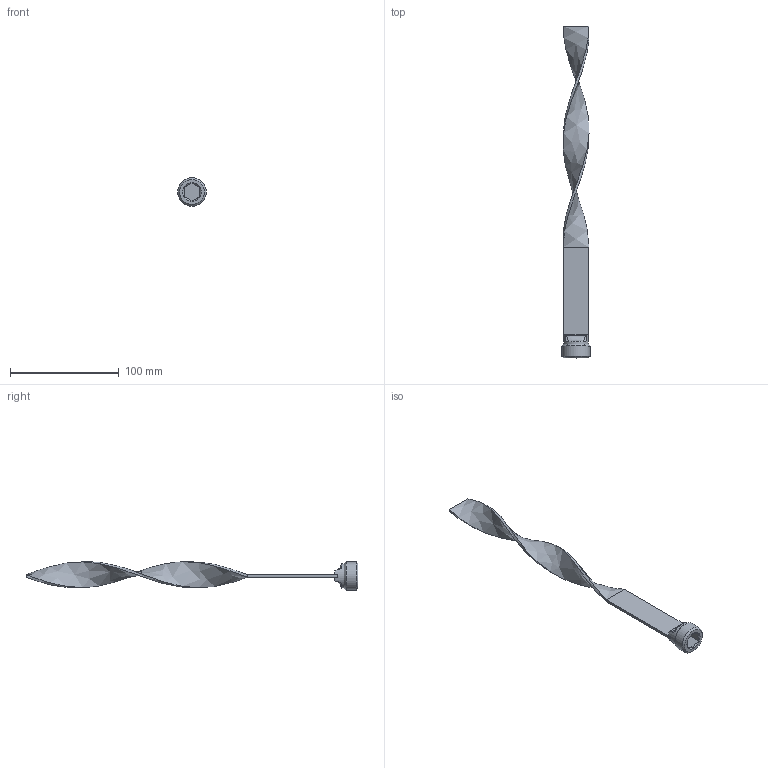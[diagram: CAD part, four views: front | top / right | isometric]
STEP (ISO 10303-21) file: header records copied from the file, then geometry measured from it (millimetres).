
FILE_DESCRIPTION(/* description */ (''),/* implementation_level */ '2;1');
FILE_NAME(/* name */ 'C:/Users/drich/Desktop/TB34X12 v1.step',/* time_stamp */ '2020-01-14T09:04:20-06:00',/* author */ (''),/* organization */ (''),/* preprocessor_version */ 'ST-DEVELOPER v18',/* originating_system */ 'Autodesk Translation Framework v8.12.0.6',/* authorisation */ '');
FILE_SCHEMA (('AUTOMOTIVE_DESIGN { 1 0 10303 214 3 1 1 }'));
Length unit declared in the file: inch
Products named in the file (1): TB34X12
Bounding box: 26.3 x 304.8 x 26.3 mm (x, y, z)
Volume: 22800 mm3; surface area: 18061.3 mm2
Topology: 2 solids, 2 shells, 43 faces, 107 edges, 70 vertices
Faces by surface type: plane 22, bspline 10, cylinder 6, cone 3, torus 2
Full cylindrical faces by diameter (mm): 22.504 x1, 26.299 x1
Entity records: 1938 total; most frequent: CARTESIAN_POINT 935, ORIENTED_EDGE 214, DIRECTION 175, EDGE_CURVE 107, VERTEX_POINT 70, AXIS2_PLACEMENT_3D 64, LINE 47, VECTOR 47
